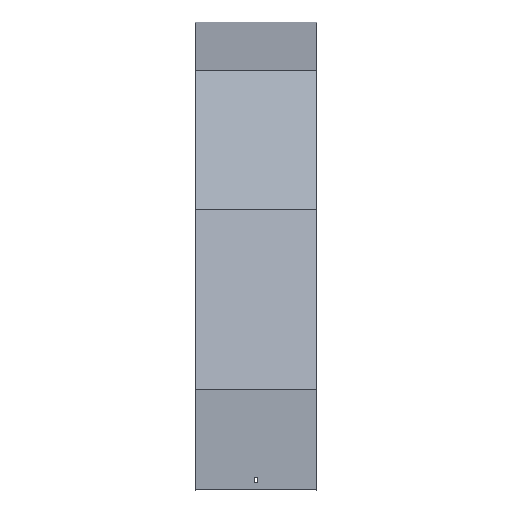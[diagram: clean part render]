
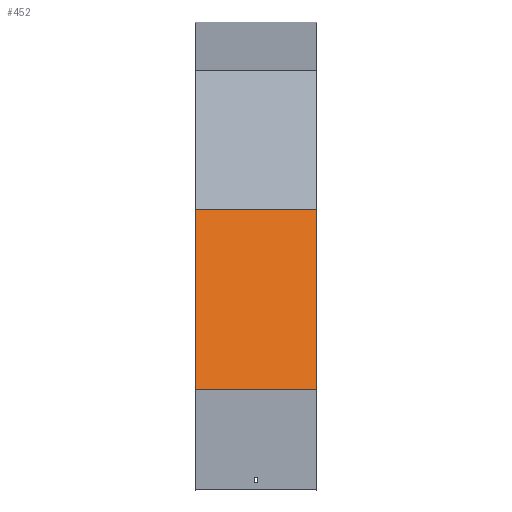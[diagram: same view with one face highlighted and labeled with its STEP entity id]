
A CAD part, top view. The second image highlights one B-rep face of the part: STEP entity #452.
In plain terms, the highlighted planar face has unit normal (0, 0.259, 0.966).
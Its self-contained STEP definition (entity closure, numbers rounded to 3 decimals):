
#18 = LINE ( 'NONE', #451, #573 ) ;
#113 = EDGE_LOOP ( 'NONE', ( #560, #613, #865, #189 ) ) ;
#165 = EDGE_CURVE ( 'NONE', #618, #316, #899, .T. ) ;
#185 = PLANE ( 'NONE',  #955 ) ;
#189 = ORIENTED_EDGE ( 'NONE', *, *, #344, .T. ) ;
#240 = CARTESIAN_POINT ( 'NONE',  ( 101.5, -593.325, 779.958 ) ) ;
#288 = LINE ( 'NONE', #551, #351 ) ;
#300 = CARTESIAN_POINT ( 'NONE',  ( 101.5, -298.106, 700.854 ) ) ;
#316 = VERTEX_POINT ( 'NONE', #240 ) ;
#329 = CARTESIAN_POINT ( 'NONE',  ( 101.5, -292.929, 699.467 ) ) ;
#344 = EDGE_CURVE ( 'NONE', #618, #767, #18, .T. ) ;
#351 = VECTOR ( 'NONE', #540, 1000. ) ;
#356 = EDGE_CURVE ( 'NONE', #767, #884, #288, .T. ) ;
#408 = CARTESIAN_POINT ( 'NONE',  ( 101.5, -593.325, 779.958 ) ) ;
#444 = CARTESIAN_POINT ( 'NONE',  ( -101.5, -292.929, 699.467 ) ) ;
#451 = CARTESIAN_POINT ( 'NONE',  ( 101.5, -292.929, 699.467 ) ) ;
#452 = ADVANCED_FACE ( 'NONE', ( #1062 ), #185, .F. ) ;
#535 = DIRECTION ( 'NONE',  ( 0., 0.966, -0.259 ) ) ;
#540 = DIRECTION ( 'NONE',  ( 0., -0.966, 0.259 ) ) ;
#551 = CARTESIAN_POINT ( 'NONE',  ( -101.5, -298.106, 700.854 ) ) ;
#560 = ORIENTED_EDGE ( 'NONE', *, *, #356, .T. ) ;
#573 = VECTOR ( 'NONE', #804, 1000. ) ;
#598 = DIRECTION ( 'NONE',  ( -1., 0., 0. ) ) ;
#613 = ORIENTED_EDGE ( 'NONE', *, *, #681, .F. ) ;
#618 = VERTEX_POINT ( 'NONE', #329 ) ;
#627 = CARTESIAN_POINT ( 'NONE',  ( 101.5, -298.106, 700.854 ) ) ;
#677 = VECTOR ( 'NONE', #742, 1000. ) ;
#681 = EDGE_CURVE ( 'NONE', #316, #884, #841, .T. ) ;
#742 = DIRECTION ( 'NONE',  ( 0., -0.966, 0.259 ) ) ;
#767 = VERTEX_POINT ( 'NONE', #444 ) ;
#804 = DIRECTION ( 'NONE',  ( -1., 0., 0. ) ) ;
#841 = LINE ( 'NONE', #408, #1047 ) ;
#865 = ORIENTED_EDGE ( 'NONE', *, *, #165, .F. ) ;
#874 = DIRECTION ( 'NONE',  ( 0., -0.259, -0.966 ) ) ;
#884 = VERTEX_POINT ( 'NONE', #923 ) ;
#899 = LINE ( 'NONE', #300, #677 ) ;
#923 = CARTESIAN_POINT ( 'NONE',  ( -101.5, -593.325, 779.958 ) ) ;
#955 = AXIS2_PLACEMENT_3D ( 'NONE', #627, #874, #535 ) ;
#1047 = VECTOR ( 'NONE', #598, 1000. ) ;
#1062 = FACE_OUTER_BOUND ( 'NONE', #113, .T. ) ;
